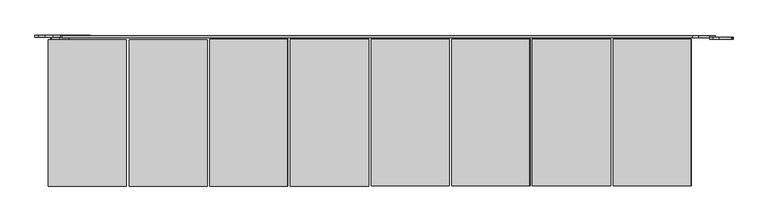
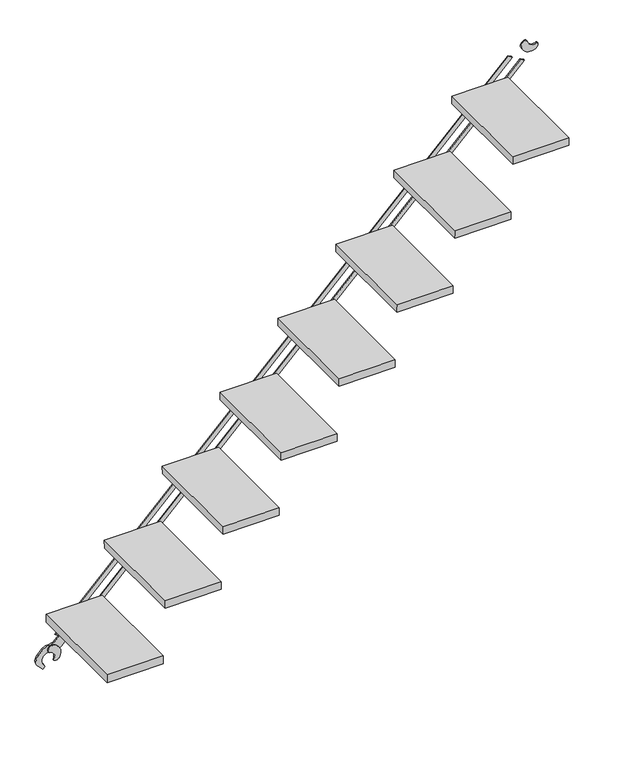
"""IFC4 building model written with IfcOpenShell, lengths in millimetres: proxy geometry, アルバトロスＡＫアルミ階段_子 : アルバトロスＡＫアルミ階段."""

from ifc_helpers import new_model, si_unit, frame, origin, place, context, project, spatial, polyline, circle_curve, outline, extrude, source, transform, mapped, element, save
from ifc_brep_helpers import plane_surface, cylinder_surface, revolved_surface, advanced_brep


def generic_models_4b7686ac(model_context):
    return source(origin(), model_context, "Body", "SolidModel", [
        advanced_brep(
        [(1774.9818173, 403.0, 1797.6674516), (1758.864664, 403.0, 1799.4625709), (1753.1578226, 403.0, 1778.8369525), (1804.1742238, 403.0, 1759.4206269), (1809.9943774, 403.0, 1763.9780417), (1812.379301, 403.0, 1779.4010018), (1808.0952079, 403.0, 1780.840496), (1774.9818173, 408.0, 1797.6674516), (1808.0952079, 408.0, 1780.840496), (1812.3792894, 408.0, 1779.400997), (1809.9943774, 408.0, 1763.9780417), (1804.1742238, 408.0, 1759.4206269), (1753.1578226, 408.0, 1778.8369525), (1758.864664, 408.0, 1799.4625709)],
        [
            (0, 1, circle_curve(frame((1766.2753798, 403.0, 1792.7483107), z_axis=(0.0, -1.0, 0.0), x_axis=(-0.7071067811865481, 0.0, -0.7071067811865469)), 10.0)),
            (1, 2, circle_curve(frame((1766.1426712, 403.0, 1786.3465269), z_axis=(0.0, -1.0, 0.0), x_axis=(-0.7071067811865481, 0.0, -0.7071067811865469)), 15.0)),
            (2, 3, circle_curve(frame((1787.0161257, 403.0, 1791.0686864), z_axis=(0.0, -1.0, 0.0), x_axis=(-0.7071067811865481, 0.0, -0.7071067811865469)), 36.0)),
            (3, 4, circle_curve(frame((1796.2234311, 403.0, 1775.5694627), z_axis=(0.0, -1.0, 0.0), x_axis=(-0.7071067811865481, 0.0, -0.7071067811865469)), 18.0)),
            (4, 5, circle_curve(frame((1798.5267226, 403.0, 1773.6472141), z_axis=(0.0, -1.0, 0.0), x_axis=(-0.7071067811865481, 0.0, -0.7071067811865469)), 15.0)),
            (5, 6, circle_curve(frame((1809.6087537, 403.0, 1778.2502877), z_axis=(0.0, -1.0, 0.0), x_axis=(-0.7071067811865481, 0.0, -0.7071067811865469)), 3.0)),
            (6, 0, circle_curve(frame((1796.8813128, 403.0, 1799.7679511), z_axis=(0.0, 1.0, 0.0), x_axis=(-0.7071067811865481, 0.0, -0.7071067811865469)), 22.0)),
            (7, 8, circle_curve(frame((1796.8813128, 408.0, 1799.7679511), z_axis=(0.0, -1.0, 0.0), x_axis=(-0.7071067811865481, 0.0, -0.7071067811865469)), 22.0)),
            (8, 9, circle_curve(frame((1809.6087537, 408.0, 1778.2502877), z_axis=(0.0, 1.0, 0.0), x_axis=(-0.7071067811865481, 0.0, -0.7071067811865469)), 3.0)),
            (9, 10, circle_curve(frame((1798.5267226, 408.0, 1773.6472141), z_axis=(0.0, 1.0, 0.0), x_axis=(-0.7071067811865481, 0.0, -0.7071067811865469)), 15.0)),
            (10, 11, circle_curve(frame((1796.2234311, 408.0, 1775.5694627), z_axis=(0.0, 1.0, 0.0), x_axis=(-0.7071067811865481, 0.0, -0.7071067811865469)), 18.0)),
            (11, 12, circle_curve(frame((1787.0161257, 408.0, 1791.0686864), z_axis=(0.0, 1.0, 0.0), x_axis=(-0.7071067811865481, 0.0, -0.7071067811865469)), 36.0)),
            (12, 13, circle_curve(frame((1766.1426712, 408.0, 1786.3465269), z_axis=(0.0, 1.0, 0.0), x_axis=(-0.7071067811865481, 0.0, -0.7071067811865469)), 15.0)),
            (13, 7, circle_curve(frame((1766.2753798, 408.0, 1792.7483107), z_axis=(0.0, 1.0, 0.0), x_axis=(-0.7071067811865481, 0.0, -0.7071067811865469)), 10.0)),
            (6, 8),
            (7, 0),
            (5, 9),
            (4, 10),
            (3, 11),
            (2, 12),
            (1, 13),
        ],
        [
            plane_surface(frame((1759.204312, 403.0, 1785.6772429), z_axis=(0.0, -1.0, 0.0), x_axis=(0.7071067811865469, 0.0, -0.7071067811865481))),
            plane_surface(frame((1759.204312, 408.0, 1785.6772429), z_axis=(0.0, 1.0, 0.0), x_axis=(-0.7071067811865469, 0.0, 0.7071067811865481))),
            revolved_surface(polyline([(1781.3249636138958, 408.0, 1784.211601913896), (1781.3249636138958, 403.0, 1784.211601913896)]), (1796.8813128, 408.0, 1799.7679511), (0.0, 1.0, 0.0)),
            cylinder_surface(frame((1809.6087537, 408.0, 1778.2502877), z_axis=(0.0, -1.0, 0.0), x_axis=(-0.7071067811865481, 0.0, -0.7071067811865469)), 3.0),
            cylinder_surface(frame((1798.5267226, 408.0, 1773.6472141), z_axis=(0.0, -1.0, 0.0), x_axis=(-0.7071067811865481, 0.0, -0.7071067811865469)), 15.0),
            cylinder_surface(frame((1796.2234311, 408.0, 1775.5694627), z_axis=(0.0, -1.0, 0.0), x_axis=(-0.7071067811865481, 0.0, -0.7071067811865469)), 18.0),
            cylinder_surface(frame((1787.0161257, 408.0, 1791.0686864), z_axis=(0.0, -1.0, 0.0), x_axis=(-0.7071067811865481, 0.0, -0.7071067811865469)), 36.0),
            cylinder_surface(frame((1766.1426712, 408.0, 1786.3465269), z_axis=(0.0, -1.0, 0.0), x_axis=(-0.7071067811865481, 0.0, -0.7071067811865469)), 15.0),
            cylinder_surface(frame((1766.2753798, 408.0, 1792.7483107), z_axis=(0.0, -1.0, 0.0), x_axis=(-0.7071067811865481, 0.0, -0.7071067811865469)), 10.0),
        ],
        [
            (0, [[1, 2, 3, 4, 5, 6, 7]]),
            (1, [[8, 9, 10, 11, 12, 13, 14]]),
            (2, [[-7, 15, -8, 16]]),
            (3, [[-6, 17, -9, -15]]),
            (4, [[-5, 18, -10, -17]]),
            (5, [[-4, 19, -11, -18]]),
            (6, [[-3, 20, -12, -19]]),
            (7, [[-2, 21, -13, -20]]),
            (8, [[-1, -16, -14, -21]]),
        ],
    ),
        advanced_brep(
        [(3.790621, 408.0, 49.0452875), (-19.0918243, 408.0, 40.3049389), (-36.0557094, 408.0, 23.3410307), (-36.0623035, 408.0, -19.0920203), (-18.3846153, 408.0, -36.7696846), (-11.173095, 408.0, -29.5581506), (-16.970457, 408.0, -16.9707086), (-16.9704635, 408.0, 14.1419846), (-14.1510225, 408.0, 16.9614742), (16.9706235, 408.0, 16.9704651), (29.5580491, 408.0, 11.1731338), (49.2854088, 408.0, 30.9005124), (101.8233493, 408.0, 83.4386272), (80.6101589, 408.0, 104.6517912), (62.9325012, 408.0, 94.0451918), (22.6887418, 408.0, 54.4394261), (3.7906352, 414.0, 49.0453245), (22.6887418, 414.0, 54.4394261), (62.9325012, 414.0, 94.0451918), (80.6101589, 414.0, 104.6517912), (101.8233493, 414.0, 83.4386272), (49.285393, 414.0, 30.9005101), (29.5580491, 414.0, 11.1731338), (16.9706552, 414.0, 16.97046), (-14.1510225, 414.0, 16.9614742), (-16.9705014, 414.0, 14.141992), (-16.9704253, 414.0, -16.9707137), (-11.173095, 414.0, -29.5581506), (-18.3846153, 414.0, -36.7696846), (-36.0623405, 414.0, -19.0920308), (-36.0557094, 414.0, 23.3410307), (-19.0918348, 414.0, 40.3049759)],
        [
            (0, 1, circle_curve(frame((2.1214051, 408.0, 19.0917615), z_axis=(0.0, -1.0, 0.0), x_axis=(-0.7071067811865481, 0.0, -0.7071067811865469)), 30.0)),
            (1, 2),
            (2, 3, circle_curve(frame((-14.8491261, 408.0, 2.1212092), z_axis=(0.0, -1.0, 0.0), x_axis=(-0.7071067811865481, 0.0, -0.7071067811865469)), 30.0)),
            (3, 4),
            (4, 5),
            (5, 6, circle_curve(frame((-31.1125752, 408.0, -31.1128616), z_axis=(0.0, -1.0, 0.0), x_axis=(-0.7071067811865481, 0.0, -0.7071067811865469)), 20.0)),
            (6, 7, circle_curve(frame((-1.4140952, 408.0, -1.4143454), z_axis=(0.0, 1.0, 0.0), x_axis=(-0.7071067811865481, 0.0, -0.7071067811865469)), 22.0)),
            (7, 8),
            (8, 9, circle_curve(frame((1.4142934, 408.0, 1.4140969), z_axis=(0.0, 1.0, 0.0), x_axis=(-0.7071067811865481, 0.0, -0.7071067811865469)), 22.0)),
            (9, 10, circle_curve(frame((31.1127734, 408.0, 31.112613), z_axis=(0.0, -1.0, 0.0), x_axis=(-0.7071067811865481, 0.0, -0.7071067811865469)), 20.0)),
            (10, 11),
            (11, 12),
            (12, 13),
            (13, 14),
            (14, 15),
            (15, 0, circle_curve(frame((5.4598511, 408.0, 78.9988505), z_axis=(0.0, 1.0, 0.0), x_axis=(-0.7071067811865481, 0.0, -0.7071067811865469)), 30.0)),
            (16, 17, circle_curve(frame((5.4598511, 414.0, 78.9988505), z_axis=(0.0, -1.0, 0.0), x_axis=(-0.7071067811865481, 0.0, -0.7071067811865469)), 30.0)),
            (17, 18),
            (18, 19),
            (19, 20),
            (20, 21),
            (21, 22),
            (22, 23, circle_curve(frame((31.1127734, 414.0, 31.112613), z_axis=(0.0, 1.0, 0.0), x_axis=(-0.7071067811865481, 0.0, -0.7071067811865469)), 20.0)),
            (23, 24, circle_curve(frame((1.4142934, 414.0, 1.4140969), z_axis=(0.0, -1.0, 0.0), x_axis=(-0.7071067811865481, 0.0, -0.7071067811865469)), 22.0)),
            (24, 25),
            (25, 26, circle_curve(frame((-1.4140952, 414.0, -1.4143454), z_axis=(0.0, -1.0, 0.0), x_axis=(-0.7071067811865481, 0.0, -0.7071067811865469)), 22.0)),
            (26, 27, circle_curve(frame((-31.1125752, 414.0, -31.1128616), z_axis=(0.0, 1.0, 0.0), x_axis=(-0.7071067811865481, 0.0, -0.7071067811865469)), 20.0)),
            (27, 28),
            (28, 29),
            (29, 30, circle_curve(frame((-14.8491261, 414.0, 2.1212092), z_axis=(0.0, 1.0, 0.0), x_axis=(-0.7071067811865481, 0.0, -0.7071067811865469)), 30.0)),
            (30, 31),
            (31, 16, circle_curve(frame((2.1214051, 414.0, 19.0917615), z_axis=(0.0, 1.0, 0.0), x_axis=(-0.7071067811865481, 0.0, -0.7071067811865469)), 30.0)),
            (15, 17),
            (16, 0),
            (14, 18),
            (13, 19),
            (12, 20),
            (11, 21),
            (10, 22),
            (9, 23),
            (8, 24),
            (7, 25),
            (6, 26),
            (5, 27),
            (4, 28),
            (3, 29),
            (2, 30),
            (1, 31),
        ],
        [
            plane_surface(frame((-19.0917983, 408.0, -2.1214419), z_axis=(0.0, -1.0, 0.0), x_axis=(0.7071067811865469, 0.0, -0.7071067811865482))),
            plane_surface(frame((-19.0917983, 414.0, -2.1214419), z_axis=(0.0, 1.0, 0.0), x_axis=(-0.7071067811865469, 0.0, 0.7071067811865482))),
            revolved_surface(polyline([(-15.753352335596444, 414.0, 57.78564706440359), (-15.753352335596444, 408.0, 57.78564706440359)]), (5.4598511, 414.0, 78.9988505), (0.0, 1.0, 0.0)),
            plane_surface(frame((62.9325012, 408.0, 94.0451918), z_axis=(-0.7014346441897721, 0.0, 0.7127337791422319), x_axis=(0.0, 1.0, 0.0))),
            plane_surface(frame((80.6101589, 408.0, 104.6517912), z_axis=(-0.5144959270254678, 0.0, 0.8574928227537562), x_axis=(0.0, 1.0, 0.0))),
            plane_surface(frame((101.8233493, 408.0, 83.4386272), z_axis=(0.7071063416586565, 0.0, 0.7071072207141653), x_axis=(0.0, 1.0, 0.0))),
            plane_surface(frame((49.285393, 408.0, 30.9005101), z_axis=(0.7071078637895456, 0.0, -0.7071056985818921), x_axis=(0.0, 1.0, 0.0))),
            plane_surface(frame((29.5580491, 408.0, 11.1731338), z_axis=(0.7071071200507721, 0.0, -0.7071064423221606), x_axis=(0.0, 1.0, 0.0))),
            cylinder_surface(frame((31.1127734, 414.0, 31.112613), z_axis=(0.0, -1.0, 0.0), x_axis=(-0.7071067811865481, 0.0, -0.7071067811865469)), 20.0),
            revolved_surface(polyline([(-14.14205578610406, 414.0, -14.142252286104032), (-14.14205578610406, 408.0, -14.142252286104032)]), (1.4142934, 414.0, 1.4140969), (0.0, 1.0, 0.0)),
            plane_surface(frame((-16.9705014, 408.0, 14.141992), z_axis=(0.7071071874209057, 0.0, -0.707106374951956), x_axis=(0.0, 1.0, 0.0))),
            revolved_surface(polyline([(-16.97044438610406, 414.0, -16.97069458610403), (-16.97044438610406, 408.0, -16.97069458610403)]), (-1.4140952, 414.0, -1.4143454), (0.0, 1.0, 0.0)),
            cylinder_surface(frame((-31.1125752, 414.0, -31.1128616), z_axis=(0.0, -1.0, 0.0), x_axis=(-0.7071067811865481, 0.0, -0.7071067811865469)), 20.0),
            plane_surface(frame((-18.3846153, 408.0, -36.7696846), z_axis=(0.707107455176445, 0.0, -0.7071061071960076), x_axis=(0.0, 1.0, 0.0))),
            plane_surface(frame((-36.0623405, 408.0, -19.0920308), z_axis=(-0.7071053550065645, 0.0, -0.7071082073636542), x_axis=(0.0, 1.0, 0.0))),
            cylinder_surface(frame((-14.8491261, 414.0, 2.1212092), z_axis=(0.0, -1.0, 0.0), x_axis=(-0.7071067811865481, 0.0, -0.7071067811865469)), 30.0),
            plane_surface(frame((-19.0918348, 408.0, 40.3049759), z_axis=(-0.7071082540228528, 0.0, 0.7071053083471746), x_axis=(0.0, 1.0, 0.0))),
            cylinder_surface(frame((2.1214051, 414.0, 19.0917615), z_axis=(0.0, -1.0, 0.0), x_axis=(-0.7071067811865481, 0.0, -0.7071067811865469)), 30.0),
        ],
        [
            (0, [[1, 2, 3, 4, 5, 6, 7, 8, 9, 10, 11, 12, 13, 14, 15, 16]]),
            (1, [[17, 18, 19, 20, 21, 22, 23, 24, 25, 26, 27, 28, 29, 30, 31, 32]]),
            (2, [[-16, 33, -17, 34]]),
            (3, [[-15, 35, -18, -33]]),
            (4, [[-14, 36, -19, -35]]),
            (5, [[-13, 37, -20, -36]]),
            (6, [[-12, 38, -21, -37]]),
            (7, [[-11, 39, -22, -38]]),
            (8, [[-10, 40, -23, -39]]),
            (9, [[-9, 41, -24, -40]]),
            (10, [[-8, 42, -25, -41]]),
            (11, [[-7, 43, -26, -42]]),
            (12, [[-6, 44, -27, -43]]),
            (13, [[-5, 45, -28, -44]]),
            (14, [[-4, 46, -29, -45]]),
            (15, [[-3, 47, -30, -46]]),
            (16, [[-2, 48, -31, -47]]),
            (17, [[-1, -34, -32, -48]]),
        ],
    ),
        advanced_brep(
        [(2.3326169, 403.0, 25.0180863), (19.1596132, 403.0, -8.0952836), (20.5991176, 403.0, -12.3793633), (36.0220699, 403.0, -9.9944323), (40.5794775, 403.0, -4.1742731), (21.1630891, 403.0, 46.8421042), (0.5374777, 403.0, 41.1352374), (2.3326169, 408.0, 25.0180863), (0.5374777, 408.0, 41.1352374), (21.1630891, 408.0, 46.8421042), (40.5794775, 408.0, -4.1742731), (36.0220699, 408.0, -9.9944323), (20.5991127, 408.0, -12.3793749), (19.1596132, 408.0, -8.0952836)],
        [
            (0, 1, circle_curve(frame((0.2321444, 403.0, 3.1185882), z_axis=(0.0, 1.0, 0.0), x_axis=(-0.7071067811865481, 0.0, -0.7071067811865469)), 22.0)),
            (1, 2, circle_curve(frame((21.7498234, 403.0, -9.6088262), z_axis=(0.0, -1.0, 0.0), x_axis=(-0.7071067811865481, 0.0, -0.7071067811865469)), 3.0)),
            (2, 3, circle_curve(frame((26.3528834, 403.0, 1.4732105), z_axis=(0.0, -1.0, 0.0), x_axis=(-0.7071067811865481, 0.0, -0.7071067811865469)), 15.0)),
            (3, 4, circle_curve(frame((24.430632, 403.0, 3.7764997), z_axis=(0.0, -1.0, 0.0), x_axis=(-0.7071067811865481, 0.0, -0.7071067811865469)), 18.0)),
            (4, 5, circle_curve(frame((8.9313969, 403.0, 12.983786), z_axis=(0.0, -1.0, 0.0), x_axis=(-0.7071067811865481, 0.0, -0.7071067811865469)), 36.0)),
            (5, 6, circle_curve(frame((13.6535307, 403.0, 33.8572464), z_axis=(0.0, -1.0, 0.0), x_axis=(-0.7071067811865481, 0.0, -0.7071067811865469)), 15.0)),
            (6, 0, circle_curve(frame((7.251747, 403.0, 33.7245298), z_axis=(0.0, -1.0, 0.0), x_axis=(-0.7071067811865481, 0.0, -0.7071067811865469)), 10.0)),
            (7, 8, circle_curve(frame((7.251747, 408.0, 33.7245298), z_axis=(0.0, 1.0, 0.0), x_axis=(-0.7071067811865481, 0.0, -0.7071067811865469)), 10.0)),
            (8, 9, circle_curve(frame((13.6535307, 408.0, 33.8572464), z_axis=(0.0, 1.0, 0.0), x_axis=(-0.7071067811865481, 0.0, -0.7071067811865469)), 15.0)),
            (9, 10, circle_curve(frame((8.9313969, 408.0, 12.983786), z_axis=(0.0, 1.0, 0.0), x_axis=(-0.7071067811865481, 0.0, -0.7071067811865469)), 36.0)),
            (10, 11, circle_curve(frame((24.430632, 408.0, 3.7764997), z_axis=(0.0, 1.0, 0.0), x_axis=(-0.7071067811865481, 0.0, -0.7071067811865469)), 18.0)),
            (11, 12, circle_curve(frame((26.3528834, 408.0, 1.4732105), z_axis=(0.0, 1.0, 0.0), x_axis=(-0.7071067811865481, 0.0, -0.7071067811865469)), 15.0)),
            (12, 13, circle_curve(frame((21.7498234, 408.0, -9.6088262), z_axis=(0.0, 1.0, 0.0), x_axis=(-0.7071067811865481, 0.0, -0.7071067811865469)), 3.0)),
            (13, 7, circle_curve(frame((0.2321444, 408.0, 3.1185882), z_axis=(0.0, -1.0, 0.0), x_axis=(-0.7071067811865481, 0.0, -0.7071067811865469)), 22.0)),
            (0, 7),
            (13, 1),
            (12, 2),
            (11, 3),
            (10, 4),
            (9, 5),
            (8, 6),
        ],
        [
            plane_surface(frame((-15.3242048, 403.0, -12.4377609), z_axis=(0.0, -1.0, 0.0), x_axis=(-0.7071067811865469, 0.0, 0.7071067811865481))),
            plane_surface(frame((-15.3242048, 408.0, -12.4377609), z_axis=(0.0, 1.0, 0.0), x_axis=(0.7071067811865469, 0.0, -0.7071067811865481))),
            revolved_surface(polyline([(-15.32420478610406, 408.0, -12.437760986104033), (-15.32420478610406, 403.0, -12.437760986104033)]), (0.2321444, 408.0, 3.1185882), (0.0, 1.0, 0.0)),
            cylinder_surface(frame((21.7498234, 408.0, -9.6088262), z_axis=(0.0, -1.0, 0.0), x_axis=(-0.7071067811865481, 0.0, -0.7071067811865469)), 3.0),
            cylinder_surface(frame((26.3528834, 408.0, 1.4732105), z_axis=(0.0, -1.0, 0.0), x_axis=(-0.7071067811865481, 0.0, -0.7071067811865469)), 15.0),
            cylinder_surface(frame((24.430632, 408.0, 3.7764997), z_axis=(0.0, -1.0, 0.0), x_axis=(-0.7071067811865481, 0.0, -0.7071067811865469)), 18.0),
            cylinder_surface(frame((8.9313969, 408.0, 12.983786), z_axis=(0.0, -1.0, 0.0), x_axis=(-0.7071067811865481, 0.0, -0.7071067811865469)), 36.0),
            cylinder_surface(frame((13.6535307, 408.0, 33.8572464), z_axis=(0.0, -1.0, 0.0), x_axis=(-0.7071067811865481, 0.0, -0.7071067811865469)), 15.0),
            cylinder_surface(frame((7.251747, 408.0, 33.7245298), z_axis=(0.0, -1.0, 0.0), x_axis=(-0.7071067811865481, 0.0, -0.7071067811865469)), 10.0),
        ],
        [
            (0, [[1, 2, 3, 4, 5, 6, 7]]),
            (1, [[8, 9, 10, 11, 12, 13, 14]]),
            (2, [[-1, 15, -14, 16]]),
            (3, [[-2, -16, -13, 17]]),
            (4, [[-3, -17, -12, 18]]),
            (5, [[-4, -18, -11, 19]]),
            (6, [[-5, -19, -10, 20]]),
            (7, [[-6, -20, -9, 21]]),
            (8, [[-7, -21, -8, -15]]),
        ],
    ),
        extrude(outline(polyline([(0.0, -207.924), (0.0, 0.0), (390.0, 0.0), (390.0, -207.924), (0.0, -207.924)])), frame((-9.5229778, 12.0, 148.8903678), z_axis=(-0.007990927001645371, 0.0, 0.9999680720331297), x_axis=(0.0, 1.0, 0.0)), (0.0, 0.0, 1.0), 30.0),
        extrude(outline(polyline([(0.0, -207.924), (0.0, 0.0), (390.0, 0.0), (390.0, -207.924), (0.0, -207.924)])), frame((206.1551975, 12.0, 363.6206922), z_axis=(-0.00799092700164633, 0.0, 0.9999680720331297), x_axis=(0.0, 1.0, 0.0)), (0.0, 0.0, 1.0), 30.0),
        extrude(outline(polyline([(0.0, -207.924), (0.0, 0.0), (390.0, 0.0), (390.0, -207.924), (0.0, -207.924)])), frame((420.8778891, 12.0, 578.3433812), z_axis=(-0.007990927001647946, 0.0, 0.9999680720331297), x_axis=(0.0, 1.0, 0.0)), (0.0, 0.0, 1.0), 30.0),
        extrude(outline(polyline([(0.0, -207.924), (0.0, 0.0), (390.0, 0.0), (390.0, -207.924), (0.0, -207.924)])), frame((635.6005807, 12.0, 793.0660702), z_axis=(-0.007990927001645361, 0.0, 0.9999680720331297), x_axis=(0.0, 1.0, 0.0)), (0.0, 0.0, 1.0), 30.0),
        extrude(outline(polyline([(0.0, -207.9240001), (0.0, 0.0), (390.0, 0.0), (390.0, -207.9240001), (0.0, -207.9240001)])), frame((850.3232722, 12.0, 1007.7887592), z_axis=(-0.00799092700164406, 0.0, 0.9999680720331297), x_axis=(0.0, 1.0, 0.0)), (0.0, 0.0, 1.0), 30.0),
        extrude(outline(polyline([(0.0, -207.924), (0.0, 0.0), (390.0, 0.0), (390.0, -207.924), (0.0, -207.924)])), frame((1065.0459638, 12.0, 1222.5114483), z_axis=(-0.007990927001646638, 0.0, 0.9999680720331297), x_axis=(0.0, 1.0, 0.0)), (0.0, 0.0, 1.0), 30.0),
        extrude(outline(polyline([(0.0, -207.924), (0.0, 0.0), (390.0, 0.0), (390.0, -207.924), (0.0, -207.924)])), frame((1279.7686554, 12.0, 1437.2341373), z_axis=(-0.007990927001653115, 0.0, 0.9999680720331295), x_axis=(0.0, 1.0, 0.0)), (0.0, 0.0, 1.0), 30.0),
        extrude(outline(polyline([(0.0, -207.924), (0.0, 0.0), (390.0, 0.0), (390.0, -207.924), (0.0, -207.924)])), frame((1494.491347, 12.0, 1651.9568263), z_axis=(-0.00799092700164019, 0.0, 0.9999680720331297), x_axis=(0.0, 1.0, 0.0)), (0.0, 0.0, 1.0), 30.0),
        extrude(outline(polyline([(1760.6425974, 1706.6196213), (82.2700822, 28.247086), (73.7493572, 42.2123711), (1752.1218688, 1720.5849027), (1760.6425974, 1706.6196213)])), frame((0.0, 407.0, 0.0), z_axis=(0.0, 1.0, 0.0), x_axis=(0.0, 0.0, 1.0)), (0.0, 0.0, 1.0), 5.0),
        extrude(outline(polyline([(1733.0440235, 1751.8530531), (54.6715225, 73.480532), (46.1507972, 87.4458176), (1724.5232945, 1765.818335), (1733.0440235, 1751.8530531)])), frame((0.0, 407.0, 0.0), z_axis=(0.0, 1.0, 0.0), x_axis=(0.0, 0.0, 1.0)), (0.0, 0.0, 1.0), 5.0),
    ])


if __name__ == "__main__":
    model = new_model("IFC4")
    model_context = context("Model", 3, world=origin())
    ifc_project = project(units=[si_unit("LENGTHUNIT", "METRE", prefix="MILLI")], contexts=[model_context])
    site = spatial("IfcSite", under=ifc_project)
    building = spatial("IfcBuilding", under=site)
    placement = place(None, origin())
    generic_models_shape = generic_models_4b7686ac(model_context)
    element("IfcBuildingElementProxy", 1, Name="アルバトロスＡＫアルミ階段_子 : アルバトロスＡＫアルミ階段", ObjectType="アルバトロスＡＫアルミ階段_子 : アルバトロスＡＫアルミ階段", at=placement, inside=building, context=model_context, shape_type="MappedRepresentation", body=[
        mapped(generic_models_shape, transform((0.0, 0.0, 0.0), x_axis=(1.0, 0.0, 0.0), y_axis=(0.0, 1.0, 0.0), z_axis=(0.0, 0.0, 1.0))),
    ])
    save(model, "model.ifc")
